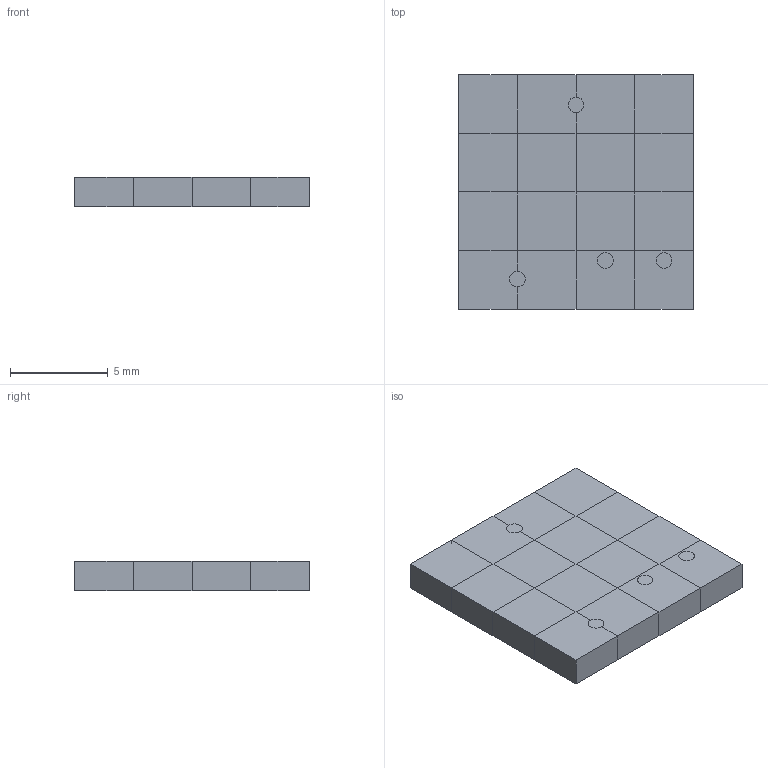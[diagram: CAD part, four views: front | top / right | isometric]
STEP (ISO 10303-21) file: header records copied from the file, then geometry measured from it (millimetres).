
FILE_DESCRIPTION(('Open CASCADE Model'),'2;1');
FILE_NAME('Open CASCADE Shape Model','2026-11-27T10:07:12',('Author'),( 'Open CASCADE'),'Open CASCADE STEP processor 7.9','Open CASCADE 7.9' ,'Unknown');
FILE_SCHEMA(('AUTOMOTIVE_DESIGN { 1 0 10303 214 1 1 1 1 }'));
Length unit declared in the file: millimetre
Products named in the file (3): manifold_N5; fluid; solid
Assembly tree (2 placements, depth 2):
  manifold_N5
    fluid
    solid
Bounding box: 12 x 12 x 1.5 mm (x, y, z)
Volume: 216 mm3; surface area: 1108.1 mm2
Topology: 2 solids, 2 shells, 884 faces, 2662 edges, 1654 vertices
Faces by surface type: plane 876, cylinder 8
Full cylindrical faces by diameter (mm): 0.8 x8
Entity records: 64366 total; most frequent: CARTESIAN_POINT 12767, DIRECTION 9260, LINE 6874, VECTOR 6874, ORIENTED_EDGE 5324, PCURVE 5324, DEFINITIONAL_REPRESENTATION 5324, EDGE_CURVE 2662
